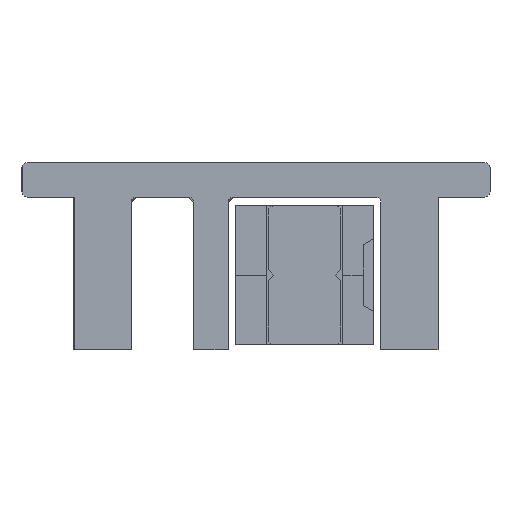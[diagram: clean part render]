
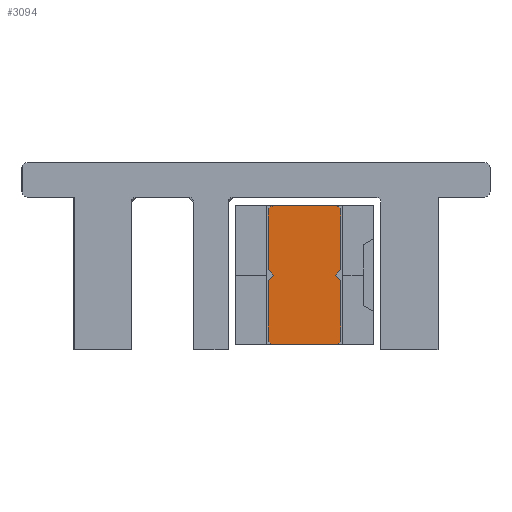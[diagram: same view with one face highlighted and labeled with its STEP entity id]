
A CAD part, front view. The second image highlights one B-rep face of the part: STEP entity #3094.
In plain terms, the highlighted planar face has unit normal (0, -1, 0) as drawn and (0, 0, 1) by its records, which use the part's own axes.
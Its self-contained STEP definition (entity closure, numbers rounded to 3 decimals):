
#103 = LINE ( 'NONE', #2258, #3907 ) ;
#178 = VECTOR ( 'NONE', #4971, 1000. ) ;
#184 = EDGE_CURVE ( 'NONE', #3744, #5052, #2120, .T. ) ;
#197 = VERTEX_POINT ( 'NONE', #743 ) ;
#265 = DIRECTION ( 'NONE',  ( 0., 0., -1. ) ) ;
#279 = DIRECTION ( 'NONE',  ( 0., 0., -1. ) ) ;
#281 = AXIS2_PLACEMENT_3D ( 'NONE', #704, #279, #5539 ) ;
#365 = EDGE_CURVE ( 'NONE', #4258, #4162, #1494, .T. ) ;
#379 = CARTESIAN_POINT ( 'NONE',  ( -14.2, -0.3, 2770. ) ) ;
#409 = FACE_OUTER_BOUND ( 'NONE', #3269, .T. ) ;
#453 = CIRCLE ( 'NONE', #4638, 0.3 ) ;
#580 = CARTESIAN_POINT ( 'NONE',  ( 0., 3.7, 2770. ) ) ;
#602 = ORIENTED_EDGE ( 'NONE', *, *, #4377, .F. ) ;
#668 = CARTESIAN_POINT ( 'NONE',  ( 3.9, 0., 2770. ) ) ;
#686 = CARTESIAN_POINT ( 'NONE',  ( 3.9, 0.3, 2770. ) ) ;
#704 = CARTESIAN_POINT ( 'NONE',  ( 3.9, 7.7, 2770. ) ) ;
#743 = CARTESIAN_POINT ( 'NONE',  ( 0.3, 0., 2770. ) ) ;
#927 = ORIENTED_EDGE ( 'NONE', *, *, #365, .F. ) ;
#935 = EDGE_CURVE ( 'NONE', #2275, #2738, #969, .T. ) ;
#969 = LINE ( 'NONE', #3600, #2209 ) ;
#1022 = VERTEX_POINT ( 'NONE', #4132 ) ;
#1030 = ORIENTED_EDGE ( 'NONE', *, *, #2005, .F. ) ;
#1037 = LINE ( 'NONE', #5581, #4371 ) ;
#1077 = ORIENTED_EDGE ( 'NONE', *, *, #1483, .F. ) ;
#1090 = ORIENTED_EDGE ( 'NONE', *, *, #2499, .F. ) ;
#1245 = ORIENTED_EDGE ( 'NONE', *, *, #5385, .F. ) ;
#1271 = DIRECTION ( 'NONE',  ( -0.707, -0.707, 0. ) ) ;
#1313 = CARTESIAN_POINT ( 'NONE',  ( 0., 7.7, 2770. ) ) ;
#1320 = CARTESIAN_POINT ( 'NONE',  ( 0.3, 7.7, 2770. ) ) ;
#1346 = DIRECTION ( 'NONE',  ( 0., 0., -1. ) ) ;
#1399 = LINE ( 'NONE', #2657, #3173 ) ;
#1448 = DIRECTION ( 'NONE',  ( 0.707, -0.707, 0. ) ) ;
#1452 = ORIENTED_EDGE ( 'NONE', *, *, #935, .F. ) ;
#1483 = EDGE_CURVE ( 'NONE', #5052, #2111, #4116, .T. ) ;
#1494 = LINE ( 'NONE', #5157, #4001 ) ;
#1586 = CARTESIAN_POINT ( 'NONE',  ( 0., 7.7, 2770. ) ) ;
#1680 = EDGE_CURVE ( 'NONE', #4162, #3744, #2077, .T. ) ;
#1734 = DIRECTION ( 'NONE',  ( -1., 0., 0. ) ) ;
#1745 = ORIENTED_EDGE ( 'NONE', *, *, #5111, .F. ) ;
#1747 = DIRECTION ( 'NONE',  ( 0., 1., 0. ) ) ;
#1852 = AXIS2_PLACEMENT_3D ( 'NONE', #1320, #1346, #1734 ) ;
#1992 = CARTESIAN_POINT ( 'NONE',  ( 4.2, 3.7, 2770. ) ) ;
#2003 = DIRECTION ( 'NONE',  ( 0., 0., -1. ) ) ;
#2005 = EDGE_CURVE ( 'NONE', #4930, #197, #4304, .T. ) ;
#2066 = CARTESIAN_POINT ( 'NONE',  ( 0.3, 0., 2770. ) ) ;
#2077 = LINE ( 'NONE', #3881, #5559 ) ;
#2111 = VERTEX_POINT ( 'NONE', #4881 ) ;
#2120 = LINE ( 'NONE', #2978, #5585 ) ;
#2209 = VECTOR ( 'NONE', #1448, 1000. ) ;
#2218 = ORIENTED_EDGE ( 'NONE', *, *, #1680, .F. ) ;
#2258 = CARTESIAN_POINT ( 'NONE',  ( 4.2, 7.7, 2770. ) ) ;
#2275 = VERTEX_POINT ( 'NONE', #4243 ) ;
#2305 = CIRCLE ( 'NONE', #2866, 0.3 ) ;
#2471 = DIRECTION ( 'NONE',  ( -1., 0., 0. ) ) ;
#2499 = EDGE_CURVE ( 'NONE', #2785, #4781, #5123, .T. ) ;
#2503 = CARTESIAN_POINT ( 'NONE',  ( 4.2, 0.3, 2770. ) ) ;
#2570 = DIRECTION ( 'NONE',  ( -0.707, 0.707, 0. ) ) ;
#2657 = CARTESIAN_POINT ( 'NONE',  ( 3.9, 4., 2770. ) ) ;
#2738 = VERTEX_POINT ( 'NONE', #1992 ) ;
#2785 = VERTEX_POINT ( 'NONE', #2876 ) ;
#2866 = AXIS2_PLACEMENT_3D ( 'NONE', #686, #2003, #4602 ) ;
#2876 = CARTESIAN_POINT ( 'NONE',  ( 3.9, 8., 2770. ) ) ;
#2978 = CARTESIAN_POINT ( 'NONE',  ( 0., 7.7, 2770. ) ) ;
#3091 = VERTEX_POINT ( 'NONE', #4845 ) ;
#3094 = ADVANCED_FACE ( 'NONE', ( #409 ), #3108, .F. ) ;
#3096 = ORIENTED_EDGE ( 'NONE', *, *, #5482, .F. ) ;
#3108 = PLANE ( 'NONE',  #5361 ) ;
#3173 = VECTOR ( 'NONE', #1271, 1000. ) ;
#3234 = CARTESIAN_POINT ( 'NONE',  ( 4.2, 7.7, 2770. ) ) ;
#3269 = EDGE_LOOP ( 'NONE', ( #2218, #927, #3502, #1245, #1030, #5079, #1745, #1452, #3096, #4886, #1090, #602, #1077, #4952 ) ) ;
#3285 = DIRECTION ( 'NONE',  ( 0.707, 0.707, 0. ) ) ;
#3375 = DIRECTION ( 'NONE',  ( 0., 1., 0. ) ) ;
#3502 = ORIENTED_EDGE ( 'NONE', *, *, #3818, .F. ) ;
#3600 = CARTESIAN_POINT ( 'NONE',  ( 4.2, 3.7, 2770. ) ) ;
#3671 = CARTESIAN_POINT ( 'NONE',  ( 4.2, 7.7, 2770. ) ) ;
#3744 = VERTEX_POINT ( 'NONE', #5653 ) ;
#3818 = EDGE_CURVE ( 'NONE', #3091, #4258, #5592, .T. ) ;
#3842 = DIRECTION ( 'NONE',  ( 1., 0., 0. ) ) ;
#3881 = CARTESIAN_POINT ( 'NONE',  ( 0., 4.3, 2770. ) ) ;
#3907 = VECTOR ( 'NONE', #4558, 1000. ) ;
#3969 = CARTESIAN_POINT ( 'NONE',  ( 0.3, 0.3, 2770. ) ) ;
#4001 = VECTOR ( 'NONE', #3285, 1000. ) ;
#4116 = CIRCLE ( 'NONE', #1852, 0.3 ) ;
#4132 = CARTESIAN_POINT ( 'NONE',  ( 4.2, 4.3, 2770. ) ) ;
#4162 = VERTEX_POINT ( 'NONE', #5700 ) ;
#4243 = CARTESIAN_POINT ( 'NONE',  ( 3.9, 4., 2770. ) ) ;
#4258 = VERTEX_POINT ( 'NONE', #580 ) ;
#4304 = LINE ( 'NONE', #2066, #178 ) ;
#4355 = EDGE_CURVE ( 'NONE', #5413, #4930, #2305, .T. ) ;
#4371 = VECTOR ( 'NONE', #3842, 1000. ) ;
#4377 = EDGE_CURVE ( 'NONE', #2111, #2785, #1037, .T. ) ;
#4508 = DIRECTION ( 'NONE',  ( 0., -1., 0. ) ) ;
#4558 = DIRECTION ( 'NONE',  ( 0., -1., 0. ) ) ;
#4602 = DIRECTION ( 'NONE',  ( -1., 0., 0. ) ) ;
#4638 = AXIS2_PLACEMENT_3D ( 'NONE', #3969, #265, #2471 ) ;
#4759 = EDGE_CURVE ( 'NONE', #4781, #1022, #103, .T. ) ;
#4781 = VERTEX_POINT ( 'NONE', #3234 ) ;
#4806 = DIRECTION ( 'NONE',  ( 0., 1., 0. ) ) ;
#4845 = CARTESIAN_POINT ( 'NONE',  ( 0., 0.3, 2770. ) ) ;
#4881 = CARTESIAN_POINT ( 'NONE',  ( 0.3, 8., 2770. ) ) ;
#4886 = ORIENTED_EDGE ( 'NONE', *, *, #4759, .F. ) ;
#4914 = VECTOR ( 'NONE', #3375, 1000. ) ;
#4930 = VERTEX_POINT ( 'NONE', #668 ) ;
#4952 = ORIENTED_EDGE ( 'NONE', *, *, #184, .F. ) ;
#4971 = DIRECTION ( 'NONE',  ( -1., 0., 0. ) ) ;
#5052 = VERTEX_POINT ( 'NONE', #1313 ) ;
#5079 = ORIENTED_EDGE ( 'NONE', *, *, #4355, .F. ) ;
#5111 = EDGE_CURVE ( 'NONE', #2738, #5413, #5316, .T. ) ;
#5123 = CIRCLE ( 'NONE', #281, 0.3 ) ;
#5157 = CARTESIAN_POINT ( 'NONE',  ( 0.3, 4., 2770. ) ) ;
#5316 = LINE ( 'NONE', #3671, #5552 ) ;
#5361 = AXIS2_PLACEMENT_3D ( 'NONE', #379, #5643, #1747 ) ;
#5385 = EDGE_CURVE ( 'NONE', #197, #3091, #453, .T. ) ;
#5413 = VERTEX_POINT ( 'NONE', #2503 ) ;
#5482 = EDGE_CURVE ( 'NONE', #1022, #2275, #1399, .T. ) ;
#5539 = DIRECTION ( 'NONE',  ( -1., 0., 0. ) ) ;
#5552 = VECTOR ( 'NONE', #4508, 1000. ) ;
#5559 = VECTOR ( 'NONE', #2570, 1000. ) ;
#5581 = CARTESIAN_POINT ( 'NONE',  ( 0.3, 8., 2770. ) ) ;
#5585 = VECTOR ( 'NONE', #4806, 1000. ) ;
#5592 = LINE ( 'NONE', #1586, #4914 ) ;
#5643 = DIRECTION ( 'NONE',  ( 0., 0., -1. ) ) ;
#5653 = CARTESIAN_POINT ( 'NONE',  ( 0., 4.3, 2770. ) ) ;
#5700 = CARTESIAN_POINT ( 'NONE',  ( 0.3, 4., 2770. ) ) ;
